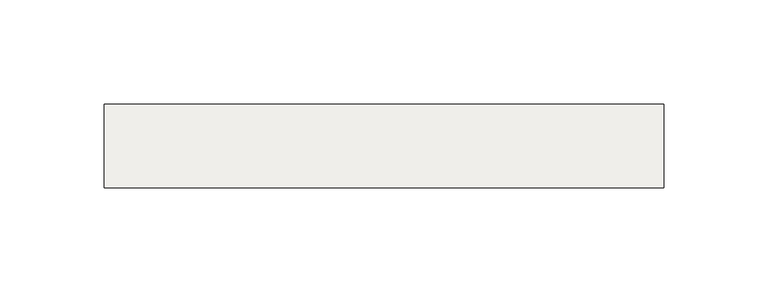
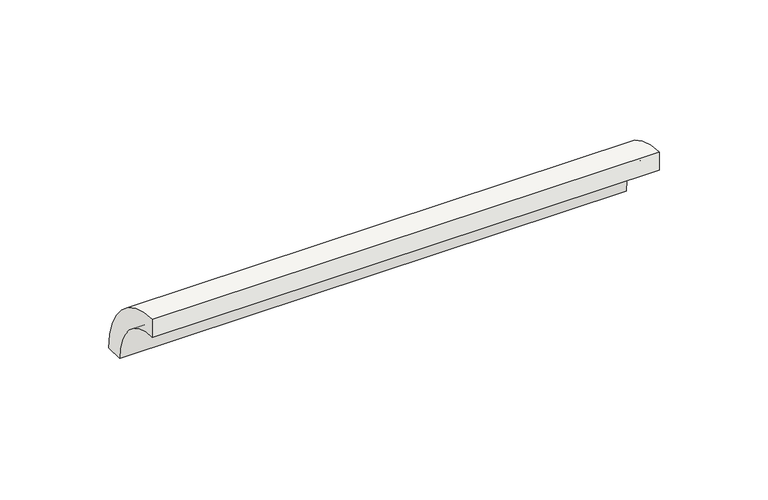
"""IFC4 building model written with IfcOpenShell, lengths in millimetres: slab geometry, ROSA GRES_138 : Pieza 138_Aqua_Plomo_Anti-Slip."""

from ifc_helpers import new_model, si_unit, point, frame, frame_2d, origin, origin_2d, place, context, project, spatial, polyline, circle_curve, trimmed, segment, composite_curve, outline, extrude, source, transform, mapped, element, save


def slab_a58539a0(model_context):
    return source(origin(), model_context, "Body", "SweptSolid", [
        extrude(outline(composite_curve([segment(trimmed(circle_curve(origin_2d(), 40.0), [point((0.0, 40.0))], [point((40.0, 0.0))], False, "CARTESIAN"), True, "CONTINUOUS"), segment(polyline([(40.0, 0.0), (30.0265886, 0.0)]), True, "CONTINUOUS"), segment(trimmed(circle_curve(frame_2d((0.0044453, 0.0044453)), 30.0221435), [point((30.0265886, 0.0))], [point((0.0, 30.0265886))], True, "CARTESIAN"), True, "CONTINUOUS"), segment(polyline([(0.0, 30.0265886), (0.0, 40.0)]), True, "CONTINUOUS")], self_intersect=False)), frame((0.0, 0.0, 0.0), z_axis=(1.0, 0.0, 0.0), x_axis=(0.0, 1.0, 0.0)), (0.0, 0.0, 1.0), 268.499166),
    ])


if __name__ == "__main__":
    model = new_model("IFC4")
    model_context = context("Model", 3, world=origin())
    ifc_project = project(units=[si_unit("LENGTHUNIT", "METRE", prefix="MILLI")], contexts=[model_context])
    site = spatial("IfcSite", under=ifc_project)
    building = spatial("IfcBuilding", under=site)
    placement = place(None, origin())
    slab_shape = slab_a58539a0(model_context)
    element("IfcSlab", 1, ObjectType="ROSA GRES_138 : Pieza 138_Aqua_Plomo_Anti-Slip", at=placement, inside=building, context=model_context, shape_type="MappedRepresentation", body=[
        mapped(slab_shape, transform((0.0, 0.0, 0.0), x_axis=(1.0, 0.0, 0.0), y_axis=(0.0, 1.0, 0.0), z_axis=(0.0, 0.0, 1.0))),
    ])
    save(model, "model.ifc")
